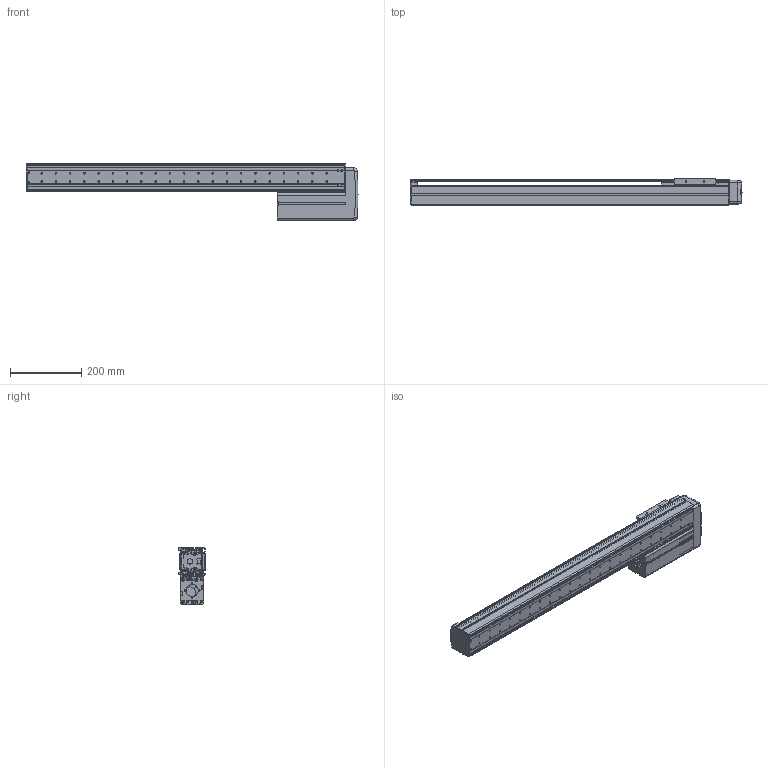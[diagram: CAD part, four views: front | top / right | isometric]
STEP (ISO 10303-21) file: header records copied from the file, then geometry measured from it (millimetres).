
FILE_DESCRIPTION((''),'2;1');
FILE_NAME('BE10E-UL-M_B-70_IGS_PRT','2017-06-17T',(' '),(''),'PRO/ENGINEER BY PARAMETRIC TECHNOLOGY CORPORATION, 2015030','PRO/ENGINEER BY PARAMETRIC TECHNOLOGY CORPORATION, 2015030','');
FILE_SCHEMA(('CONFIG_CONTROL_DESIGN'));
Length unit declared in the file: millimetre
Products named in the file (1): BE10E-UL-M_B-70_IGS_PRT
Bounding box: 932 x 75 x 160 mm (x, y, z)
Volume: 1401451.2 mm3; surface area: 960155.4 mm2
Topology: 2 solids, 119 shells, 1824 faces, 4926 edges, 3208 vertices
Faces by surface type: cylinder 881, plane 715, cone 81, torus 71, sphere 44, bspline 32
Entity records: 59646 total; most frequent: CARTESIAN_POINT 12575, DIRECTION 10224, ORIENTED_EDGE 9334, EDGE_CURVE 4890, AXIS2_PLACEMENT_3D 3833, VERTEX_POINT 3208, VECTOR 2558, LINE 2558
